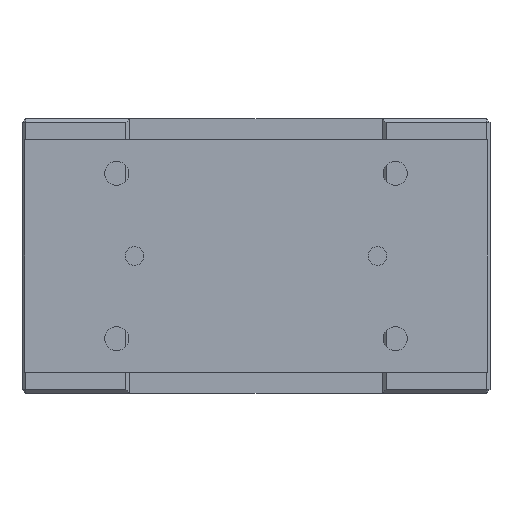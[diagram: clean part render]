
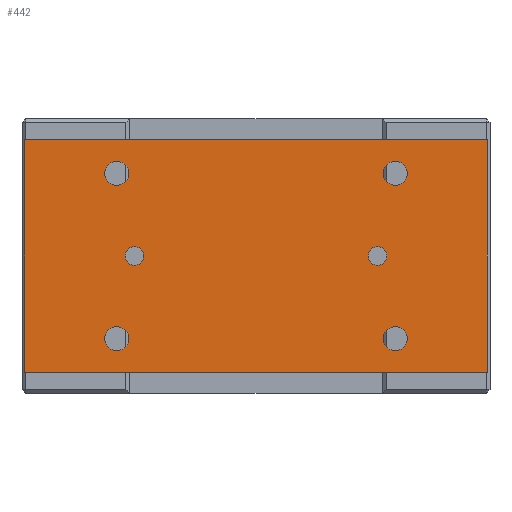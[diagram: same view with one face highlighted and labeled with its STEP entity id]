
A CAD part, left-side view. The second image highlights one B-rep face of the part: STEP entity #442.
In plain terms, the highlighted planar face has unit normal (-1, 0, 0).
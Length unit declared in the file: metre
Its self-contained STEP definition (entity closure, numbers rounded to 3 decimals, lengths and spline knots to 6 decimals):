
#442 = ADVANCED_FACE( '', ( #1066, #1067, #1068, #1069, #1070, #1071, #1072 ), #1073, .T. );
#1066 = FACE_BOUND( '', #1960, .T. );
#1067 = FACE_BOUND( '', #1961, .T. );
#1068 = FACE_BOUND( '', #1962, .T. );
#1069 = FACE_BOUND( '', #1963, .T. );
#1070 = FACE_BOUND( '', #1964, .T. );
#1071 = FACE_BOUND( '', #1965, .T. );
#1072 = FACE_OUTER_BOUND( '', #1966, .T. );
#1073 = PLANE( '', #1967 );
#1960 = EDGE_LOOP( '', ( #3170 ) );
#1961 = EDGE_LOOP( '', ( #3171 ) );
#1962 = EDGE_LOOP( '', ( #3172 ) );
#1963 = EDGE_LOOP( '', ( #3173 ) );
#1964 = EDGE_LOOP( '', ( #3174 ) );
#1965 = EDGE_LOOP( '', ( #3175 ) );
#1966 = EDGE_LOOP( '', ( #3176, #3177, #3178, #3179 ) );
#1967 = AXIS2_PLACEMENT_3D( '', #3180, #3181, #3182 );
#3170 = ORIENTED_EDGE( '', *, *, #4541, .F. );
#3171 = ORIENTED_EDGE( '', *, *, #4615, .T. );
#3172 = ORIENTED_EDGE( '', *, *, #4600, .F. );
#3173 = ORIENTED_EDGE( '', *, *, #4616, .F. );
#3174 = ORIENTED_EDGE( '', *, *, #4617, .F. );
#3175 = ORIENTED_EDGE( '', *, *, #4618, .F. );
#3176 = ORIENTED_EDGE( '', *, *, #4619, .T. );
#3177 = ORIENTED_EDGE( '', *, *, #4620, .T. );
#3178 = ORIENTED_EDGE( '', *, *, #4304, .T. );
#3179 = ORIENTED_EDGE( '', *, *, #4396, .T. );
#3180 = CARTESIAN_POINT( '', ( -0.143, -0.1245, -0.0115 ) );
#3181 = DIRECTION( '', ( -1., 0., 0. ) );
#3182 = DIRECTION( '', ( 0., 0., 1. ) );
#4304 = EDGE_CURVE( '', #4951, #4949, #4952, .T. );
#4396 = EDGE_CURVE( '', #4949, #5106, #5108, .T. );
#4541 = EDGE_CURVE( '', #5341, #5341, #5342, .T. );
#4600 = EDGE_CURVE( '', #5428, #5428, #5429, .T. );
#4615 = EDGE_CURVE( '', #5450, #5450, #5451, .T. );
#4616 = EDGE_CURVE( '', #5452, #5452, #5453, .T. );
#4617 = EDGE_CURVE( '', #5454, #5454, #5455, .T. );
#4618 = EDGE_CURVE( '', #5456, #5456, #5457, .T. );
#4619 = EDGE_CURVE( '', #5106, #5458, #5459, .T. );
#4620 = EDGE_CURVE( '', #5458, #4951, #5460, .T. );
#4949 = VERTEX_POINT( '', #5885 );
#4951 = VERTEX_POINT( '', #5888 );
#4952 = LINE( '', #5889, #5890 );
#5106 = VERTEX_POINT( '', #6098 );
#5108 = LINE( '', #6101, #6102 );
#5341 = VERTEX_POINT( '', #6442 );
#5342 = CIRCLE( '', #6443, 0.005 );
#5428 = VERTEX_POINT( '', #6615 );
#5429 = CIRCLE( '', #6616, 0.0065 );
#5450 = VERTEX_POINT( '', #6646 );
#5451 = CIRCLE( '', #6647, 0.005 );
#5452 = VERTEX_POINT( '', #6648 );
#5453 = CIRCLE( '', #6649, 0.0065 );
#5454 = VERTEX_POINT( '', #6650 );
#5455 = CIRCLE( '', #6651, 0.0065 );
#5456 = VERTEX_POINT( '', #6652 );
#5457 = CIRCLE( '', #6653, 0.0065 );
#5458 = VERTEX_POINT( '', #6654 );
#5459 = LINE( '', #6655, #6656 );
#5460 = LINE( '', #6657, #6658 );
#5885 = CARTESIAN_POINT( '', ( -0.143, 0.1245, -0.1365 ) );
#5888 = CARTESIAN_POINT( '', ( -0.143, 0.1245, -0.0115 ) );
#5889 = CARTESIAN_POINT( '', ( -0.143, 0.1245, -0.0115 ) );
#5890 = VECTOR( '', #7314, 1. );
#6098 = CARTESIAN_POINT( '', ( -0.143, -0.1245, -0.1365 ) );
#6101 = CARTESIAN_POINT( '', ( -0.143, 0.1245, -0.1365 ) );
#6102 = VECTOR( '', #7412, 1. );
#6442 = CARTESIAN_POINT( '', ( -0.143, -0.0705, -0.074 ) );
#6443 = AXIS2_PLACEMENT_3D( '', #7577, #7578, #7579 );
#6615 = CARTESIAN_POINT( '', ( -0.143, -0.075, -0.112 ) );
#6616 = AXIS2_PLACEMENT_3D( '', #7645, #7646, #7647 );
#6646 = CARTESIAN_POINT( '', ( -0.143, 0.0705, -0.074 ) );
#6647 = AXIS2_PLACEMENT_3D( '', #7660, #7661, #7662 );
#6648 = CARTESIAN_POINT( '', ( -0.143, 0.075, -0.112 ) );
#6649 = AXIS2_PLACEMENT_3D( '', #7663, #7664, #7665 );
#6650 = CARTESIAN_POINT( '', ( -0.143, -0.075, -0.023 ) );
#6651 = AXIS2_PLACEMENT_3D( '', #7666, #7667, #7668 );
#6652 = CARTESIAN_POINT( '', ( -0.143, 0.075, -0.023 ) );
#6653 = AXIS2_PLACEMENT_3D( '', #7669, #7670, #7671 );
#6654 = CARTESIAN_POINT( '', ( -0.143, -0.1245, -0.0115 ) );
#6655 = CARTESIAN_POINT( '', ( -0.143, -0.1245, -0.1365 ) );
#6656 = VECTOR( '', #7672, 1. );
#6657 = CARTESIAN_POINT( '', ( -0.143, -0.1245, -0.0115 ) );
#6658 = VECTOR( '', #7673, 1. );
#7314 = DIRECTION( '', ( 0., 0., -1. ) );
#7412 = DIRECTION( '', ( 0., -1., 0. ) );
#7577 = CARTESIAN_POINT( '', ( -0.143, -0.0655, -0.074 ) );
#7578 = DIRECTION( '', ( -1., 0., 0. ) );
#7579 = DIRECTION( '', ( 0., -1., 0. ) );
#7645 = CARTESIAN_POINT( '', ( -0.143, -0.075, -0.1185 ) );
#7646 = DIRECTION( '', ( -1., 0., 0. ) );
#7647 = DIRECTION( '', ( 0., 0., 1. ) );
#7660 = CARTESIAN_POINT( '', ( -0.143, 0.0655, -0.074 ) );
#7661 = DIRECTION( '', ( 1., 0., 0. ) );
#7662 = DIRECTION( '', ( 0., 1., 0. ) );
#7663 = CARTESIAN_POINT( '', ( -0.143, 0.075, -0.1185 ) );
#7664 = DIRECTION( '', ( -1., 0., 0. ) );
#7665 = DIRECTION( '', ( 0., 0., 1. ) );
#7666 = CARTESIAN_POINT( '', ( -0.143, -0.075, -0.0295 ) );
#7667 = DIRECTION( '', ( -1., 0., 0. ) );
#7668 = DIRECTION( '', ( 0., 0., 1. ) );
#7669 = CARTESIAN_POINT( '', ( -0.143, 0.075, -0.0295 ) );
#7670 = DIRECTION( '', ( -1., 0., 0. ) );
#7671 = DIRECTION( '', ( 0., 0., 1. ) );
#7672 = DIRECTION( '', ( 0., 0., 1. ) );
#7673 = DIRECTION( '', ( 0., 1., 0. ) );
